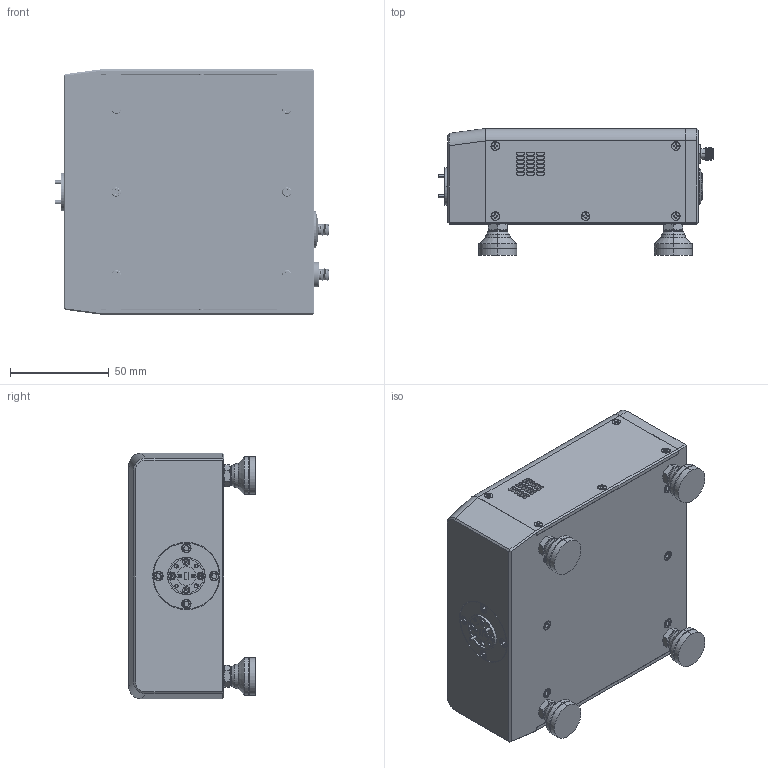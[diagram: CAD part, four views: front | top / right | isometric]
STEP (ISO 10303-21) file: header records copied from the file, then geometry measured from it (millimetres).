
FILE_DESCRIPTION (( 'STEP AP214' ), '1' );
FILE_NAME ('DMTC-15-101-A1 DF with feet.STEP', '2024-05-07T20:39:07', ( '' ), ( '' ), 'SwSTEP 2.0', 'SolidWorks 2021', '' );
FILE_SCHEMA (( 'AUTOMOTIVE_DESIGN' ));
Length unit declared in the file: inch
Products named in the file (1): DMTC-15-101-A1 DF with feet
Bounding box: 139.21 x 64.14 x 124.32 mm (x, y, z)
Volume: 763620.6 mm3; surface area: 97525.8 mm2
Topology: 17 solids, 29 shells, 2145 faces, 5573 edges, 3553 vertices
Faces by surface type: cylinder 841, plane 822, cone 414, sphere 38, bspline 28, torus 2
Entity records: 96291 total; most frequent: CARTESIAN_POINT 45910, ORIENTED_EDGE 11050, DIRECTION 9931, EDGE_CURVE 5525, AXIS2_PLACEMENT_3D 3664, VERTEX_POINT 3545, VECTOR 2603, LINE 2603
